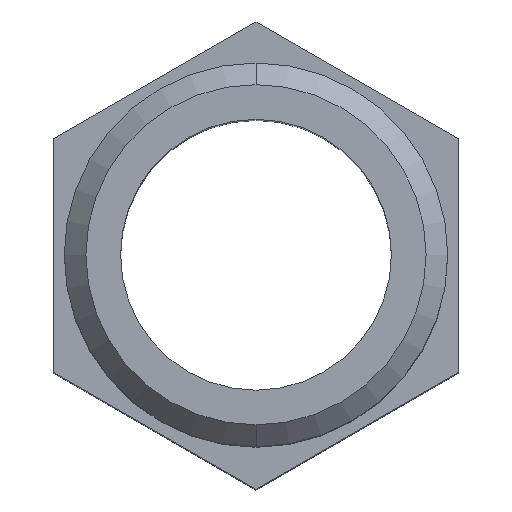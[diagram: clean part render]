
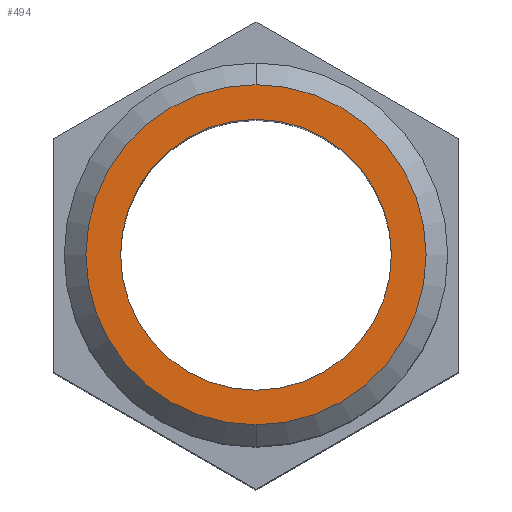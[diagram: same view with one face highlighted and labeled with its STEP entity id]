
A CAD part, top view. The second image highlights one B-rep face of the part: STEP entity #494.
In plain terms, the highlighted planar face has unit normal (0, 0, 1).
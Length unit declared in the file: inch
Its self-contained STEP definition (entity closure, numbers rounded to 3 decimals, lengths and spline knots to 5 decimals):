
#8 = AXIS2_PLACEMENT_3D ( 'NONE', #601, #540, #225 ) ;
#15 = ORIENTED_EDGE ( 'NONE', *, *, #99, .T. ) ;
#31 = VERTEX_POINT ( 'NONE', #81 ) ;
#49 = CARTESIAN_POINT ( 'NONE',  ( 0., 0.2355, 0.62 ) ) ;
#81 = CARTESIAN_POINT ( 'NONE',  ( 0., -0.2355, 0.62 ) ) ;
#90 = FACE_OUTER_BOUND ( 'NONE', #168, .T. ) ;
#94 = DIRECTION ( 'NONE',  ( 0., 0., -1. ) ) ;
#99 = EDGE_CURVE ( 'NONE', #441, #265, #366, .T. ) ;
#122 = DIRECTION ( 'NONE',  ( 0., 1., 0. ) ) ;
#134 = DIRECTION ( 'NONE',  ( 0., 0., 1. ) ) ;
#168 = EDGE_LOOP ( 'NONE', ( #727, #244 ) ) ;
#220 = DIRECTION ( 'NONE',  ( 0., 1., 0. ) ) ;
#225 = DIRECTION ( 'NONE',  ( 0., 1., 0. ) ) ;
#237 = CIRCLE ( 'NONE', #515, 0.1875 ) ;
#244 = ORIENTED_EDGE ( 'NONE', *, *, #730, .F. ) ;
#251 = CIRCLE ( 'NONE', #8, 0.2355 ) ;
#265 = VERTEX_POINT ( 'NONE', #594 ) ;
#271 = DIRECTION ( 'NONE',  ( 0., 1., 0. ) ) ;
#276 = CARTESIAN_POINT ( 'NONE',  ( 0., 0., 0.62 ) ) ;
#277 = EDGE_LOOP ( 'NONE', ( #15, #522 ) ) ;
#301 = AXIS2_PLACEMENT_3D ( 'NONE', #552, #714, #220 ) ;
#320 = CARTESIAN_POINT ( 'NONE',  ( 0., 0.1875, 0.62 ) ) ;
#345 = EDGE_CURVE ( 'NONE', #265, #441, #237, .T. ) ;
#364 = DIRECTION ( 'NONE',  ( 0., 0., -1. ) ) ;
#366 = CIRCLE ( 'NONE', #719, 0.1875 ) ;
#367 = CIRCLE ( 'NONE', #301, 0.2355 ) ;
#426 = CARTESIAN_POINT ( 'NONE',  ( 0., 0.1875, 0.62 ) ) ;
#441 = VERTEX_POINT ( 'NONE', #426 ) ;
#442 = DIRECTION ( 'NONE',  ( 0., -1., 0. ) ) ;
#494 = ADVANCED_FACE ( 'NONE', ( #563, #90 ), #749, .T. ) ;
#515 = AXIS2_PLACEMENT_3D ( 'NONE', #621, #364, #122 ) ;
#522 = ORIENTED_EDGE ( 'NONE', *, *, #345, .T. ) ;
#540 = DIRECTION ( 'NONE',  ( 0., 0., -1. ) ) ;
#552 = CARTESIAN_POINT ( 'NONE',  ( 0., 0., 0.62 ) ) ;
#563 = FACE_BOUND ( 'NONE', #277, .T. ) ;
#594 = CARTESIAN_POINT ( 'NONE',  ( 0., -0.1875, 0.62 ) ) ;
#601 = CARTESIAN_POINT ( 'NONE',  ( 0., 0., 0.62 ) ) ;
#621 = CARTESIAN_POINT ( 'NONE',  ( 0., 0., 0.62 ) ) ;
#640 = AXIS2_PLACEMENT_3D ( 'NONE', #320, #134, #442 ) ;
#664 = VERTEX_POINT ( 'NONE', #49 ) ;
#714 = DIRECTION ( 'NONE',  ( 0., 0., -1. ) ) ;
#719 = AXIS2_PLACEMENT_3D ( 'NONE', #276, #94, #271 ) ;
#727 = ORIENTED_EDGE ( 'NONE', *, *, #765, .F. ) ;
#730 = EDGE_CURVE ( 'NONE', #31, #664, #251, .T. ) ;
#749 = PLANE ( 'NONE',  #640 ) ;
#765 = EDGE_CURVE ( 'NONE', #664, #31, #367, .T. ) ;
